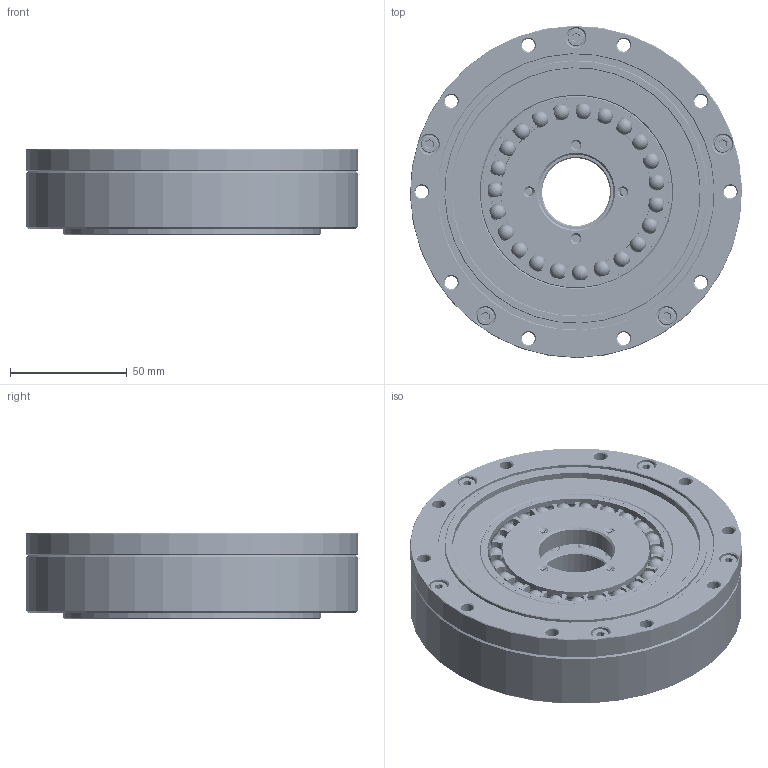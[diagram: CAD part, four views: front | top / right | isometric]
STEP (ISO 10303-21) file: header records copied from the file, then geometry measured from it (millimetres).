
FILE_DESCRIPTION(/* description */ (''),/* implementation_level */ '2;1');
FILE_NAME(/* name */ 'XBZ32成品图.prt.stp',/* time_stamp */ '2022-07-23T09:00:20+08:00',/* author */ (''),/* organization */ (''),/* preprocessor_version */ 'ST-DEVELOPER v16',/* originating_system */ 'SIEMENS PLM Software NX 10.0',/* authorisation */ '');
FILE_SCHEMA (('CONFIG_CONTROL_DESIGN'));
Products named in the file (13): 32-\X2\67D460278F74627F4FDD630167B6FF0865E568078D858584
FF09\X0\; M3X 8; XBZ32-4-1-1销子; XBD32-3-1凸轮; M5X16; M4X12; G1101226; XBZ32-1钢轮; XBZ32-2-1柔轮压板; XBZ32-2柔轮; XBZ32-4-1内芯; 32-柔性轴承(日标超薄）_
MODEL; XBZ32成品图
Assembly tree (25 placements, depth 3):
  XBZ32成品图
    XBZ32-4-1内芯
    XBZ32-2柔轮
    XBZ32-2-1柔轮压板
    XBZ32-1钢轮
    32-柔性轴承(日标超薄）_
MODEL
      32-\X2\67D460278F74627F4FDD630167B6FF0865E568078D858584
FF09\X0\
    G1101226
    M4X12  x5
    M5X16  x10
    XBD32-3-1凸轮
    XBZ32-4-1-1销子
    M3X 8
Bounding box: 142 x 142 x 37 mm (x, y, z)
Volume: 401676.5 mm3; surface area: 181643.7 mm2
Topology: 50 solids, 50 shells, 1228 faces, 3179 edges, 2074 vertices
Faces by surface type: plane 435, cylinder 352, cone 254, bspline 108, extrusion 48, sphere 23, torus 8
Full cylindrical faces by diameter (mm): 3.5 x1, 4.5 x5, 5 x110, 5.5 x40, 5.6 x1, 6 x1, 7.22 x5, 8 x5, 8.5 x10, 29 x1, 32 x4, 52 x2, 56 x1, 58.928 x1, 61.5 x2, 63.028 x2, 64.3 x1, 69 x1, 70 x1, 73 x1, 75.856 x2, 77.6 x1, 79.756 x2, 81.77 x1, 83 x1, 83.7 x1, 85.5 x1, 99.1 x1, 106 x1, 110 x2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
Entity records: 132408 total; most frequent: CARTESIAN_POINT 112870, ORIENTED_EDGE 3372, DIRECTION 3354, EDGE_CURVE 1686, AXIS2_PLACEMENT_3D 1408, EDGE_LOOP 1290, VERTEX_POINT 1285, FACE_BOUND 874
